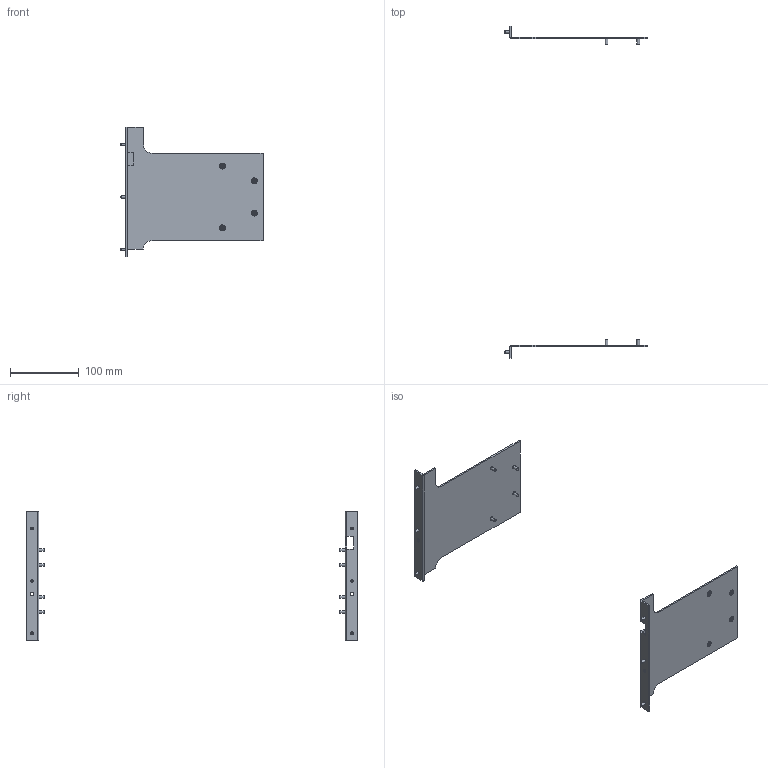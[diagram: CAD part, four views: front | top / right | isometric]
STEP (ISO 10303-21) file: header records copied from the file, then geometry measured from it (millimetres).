
FILE_DESCRIPTION(/* description */ ('MOUNTING FLANGE, LEFT'),/* implementation_level */ '2;1');
FILE_NAME(/* name */ 'C:\CAD\CAD COMPLETE\web site project\Receiver Mounting Kits\561005-RevB-STP.stp',/* time_stamp */ '2014-03-17T11:09:33+00:00',/* author */ ('davecooper'),/* organization */ (''),/* preprocessor_version */ 'ST-DEVELOPER v15.2',/* originating_system */ 'Autodesk Inventor 2014',/* authorisation */ '');
FILE_SCHEMA (('AUTOMOTIVE_DESIGN { 1 0 10303 214 3 1 1 }'));
Length unit declared in the file: inch
Products named in the file (6): 5510282; 5510283; M4F85; 632F275; 561005; 561005-CU
Bounding box: 206.6 x 482.6 x 188.72 mm (x, y, z)
Volume: 135431.4 mm3; surface area: 124596.5 mm2
Topology: 16 solids, 16 shells, 427 faces, 816 edges, 433 vertices
Faces by surface type: plane 303, cylinder 90, cone 34
Full cylindrical faces by diameter (mm): 3.505 x6, 4 x8, 5.105 x2
Entity records: 3305 total; most frequent: DIRECTION 587, CARTESIAN_POINT 526, ORIENTED_EDGE 474, EDGE_CURVE 237, AXIS2_PLACEMENT_3D 213, EDGE_LOOP 169, LINE 161, VECTOR 161
